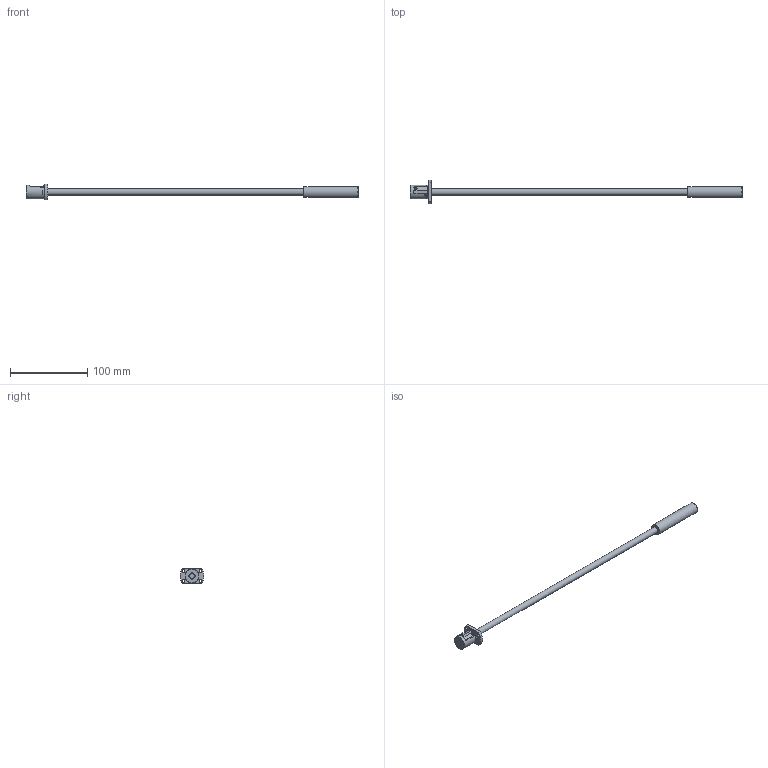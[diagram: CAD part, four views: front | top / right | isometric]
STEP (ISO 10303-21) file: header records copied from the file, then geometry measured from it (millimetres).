
FILE_DESCRIPTION( ( 'STEP AP203' ), '1' );
FILE_NAME( 'e:/temp/worker_95/temp/exporttempdir_3904_603_jduMo/format_0/SRT0805-356R430C7A0X(0None).stp', '2021-10-19T05:32:46', ( 'License CC BY-ND 4.0' ), ( 'CADENAS' ), ' ', 'PARTsolutions', ' ' );
FILE_SCHEMA( ( 'CONFIG_CONTROL_DESIGN' ) );
Length unit declared in the file: millimetre
Products named in the file (3): SRT0805-356R430C7A0X(0None); _SRT0805-356R430ACt7NoneShaft; _SRT0805Nut
Assembly tree (2 placements, depth 2):
  SRT0805-356R430C7A0X(0None)
    _SRT0805-356R430ACt7NoneShaft
    _SRT0805Nut
Bounding box: 430 x 30.91 x 20 mm (x, y, z)
Volume: 35567.4 mm3; surface area: 16018.8 mm2
Topology: 2 solids, 2 shells, 58 faces, 139 edges, 89 vertices
Faces by surface type: plane 36, cylinder 13, cone 9
Full cylindrical faces by diameter (mm): 3.4 x4, 8 x2, 14.2 x1, 17.7 x1, 18 x1
Entity records: 1762 total; most frequent: CARTESIAN_POINT 373, DIRECTION 276, ORIENTED_EDGE 234, EDGE_CURVE 117, AXIS2_PLACEMENT_3D 108, EDGE_LOOP 86, VERTEX_POINT 81, FACE_OUTER_BOUND 67
